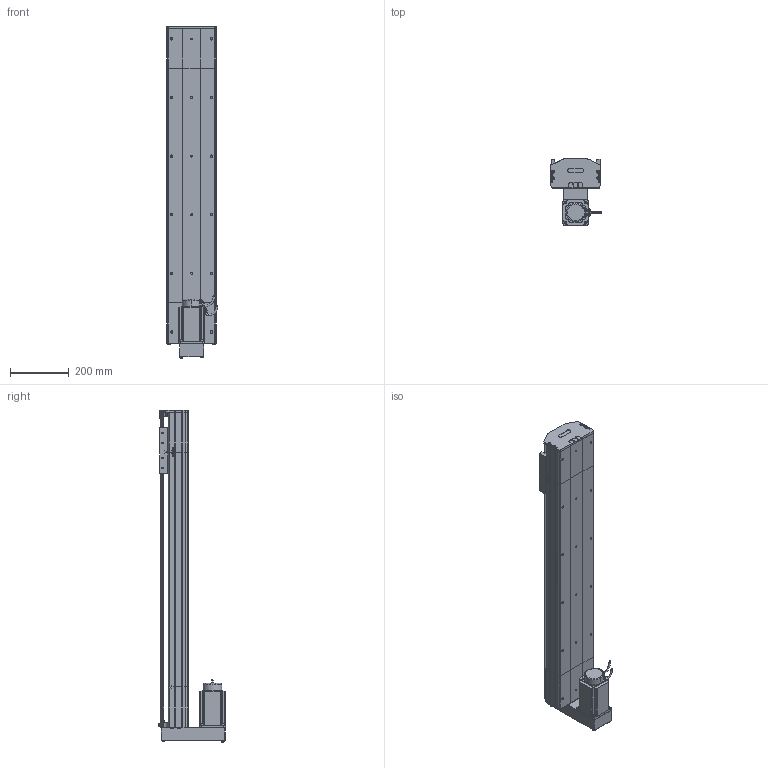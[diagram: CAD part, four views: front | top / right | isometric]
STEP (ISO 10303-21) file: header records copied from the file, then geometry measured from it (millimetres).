
FILE_DESCRIPTION (( 'STEP AP214' ), '1' );
FILE_NAME ('D17 TSH BM S800.STEP', '2010-06-30T06:45:48', ( 'Christophe Gaillard' ), ( 'SGA' ), 'SwSTEP 2.0', 'SolidWorks 2010', '' );
FILE_SCHEMA (( 'AUTOMOTIVE_DESIGN' ));
Length unit declared in the file: millimetre
Products named in the file (33): guide D17; Chariot D17; chariot D17S_Default; vis M5 L12_Default; Cvis M5 L70_Default; renvoi Bm_Default; Vis M5 L16-2_Default; Conecteur_Default; Conecteur2_Default; codeur 90BLDC125-640; vis M5 L5_Default; Moteur motionking 90BLDC125A-640; corps 90BLDC125A-640; avant 90BLDC125A-640; D17 TSH BM S800; corp D17 800_Default; arbre + rail D17 Course 800 ; course 800 D17_Default; corpl tail D17_Default; Tail D17_Default; couvercle D17 course L800_Default; tete d''axe haut D17; tete d''axe bas D17; plaque de  bout tail D17_Default; vis M5 L8 90°_Default; couvercle D17_Default; Arbre+rail tail D17; corpl head D17 BM_Default; head BM_Default; vis M5 L25_Default; Arbre+rail head D17; plaque de  bout BM head D17_Default; couvercle D17 head_Default
Assembly tree (55 placements, depth 4):
  D17 TSH BM S800
    Tail D17_Default
      Arbre+rail tail D17
      vis M5 L25_Default  x2
      vis M5 L8 90°_Default  x2
      tete d''axe bas D17
      corpl tail D17_Default
      vis M5 L12_Default  x4
      tete d''axe haut D17
      plaque de  bout tail D17_Default
      couvercle D17_Default
    course 800 D17_Default
      couvercle D17 course L800_Default
      corp D17 800_Default
      arbre + rail D17 Course 800 
    head BM_Default
      Moteur motionking 90BLDC125A-640
        corps 90BLDC125A-640
        Conecteur2_Default
        avant 90BLDC125A-640
        Conecteur_Default
        codeur 90BLDC125-640
      vis M5 L5_Default  x2
      plaque de  bout BM head D17_Default
      Vis M5 L16-2_Default  x4
      Cvis M5 L70_Default  x2
      vis M5 L12_Default  x8
      Arbre+rail head D17
      couvercle D17 head_Default
      corpl head D17 BM_Default
      renvoi Bm_Default
    chariot D17S_Default
      guide D17  x2
      vis M5 L12_Default  x4
      Chariot D17
Bounding box: 174.95 x 225.7 x 1132.7 mm (x, y, z)
Volume: 7722536 mm3; surface area: 1948028.8 mm2
Topology: 80 solids, 80 shells, 2251 faces, 5655 edges, 3648 vertices
Faces by surface type: plane 1396, cylinder 578, bspline 136, torus 73, cone 64, sphere 4
Entity records: 72709 total; most frequent: CARTESIAN_POINT 22694, ORIENTED_EDGE 8818, DIRECTION 8266, EDGE_CURVE 4409, VECTOR 3054, LINE 3054, VERTEX_POINT 2894, AXIS2_PLACEMENT_3D 2606
